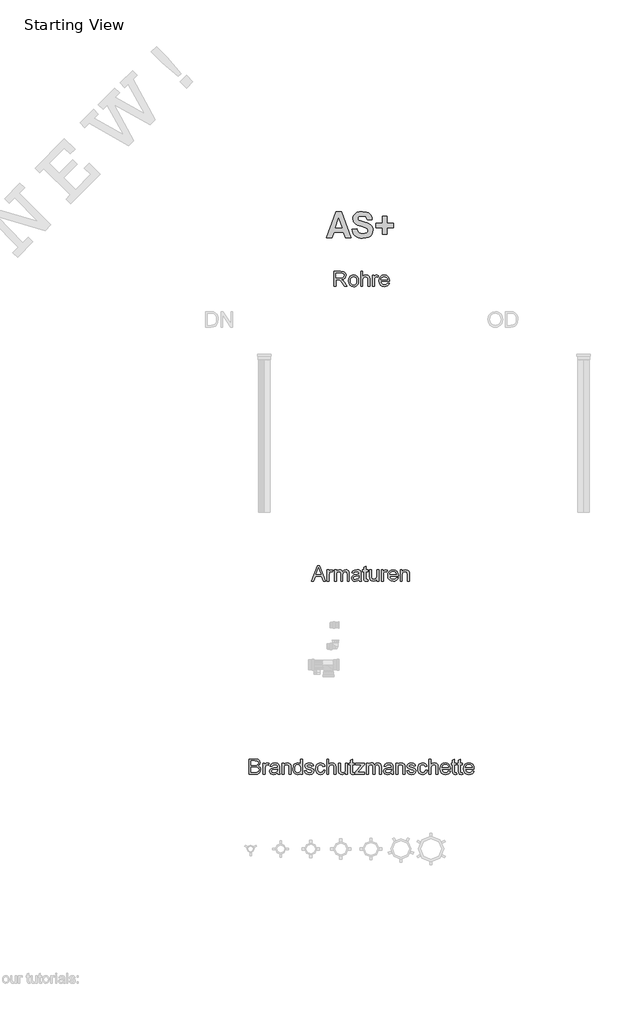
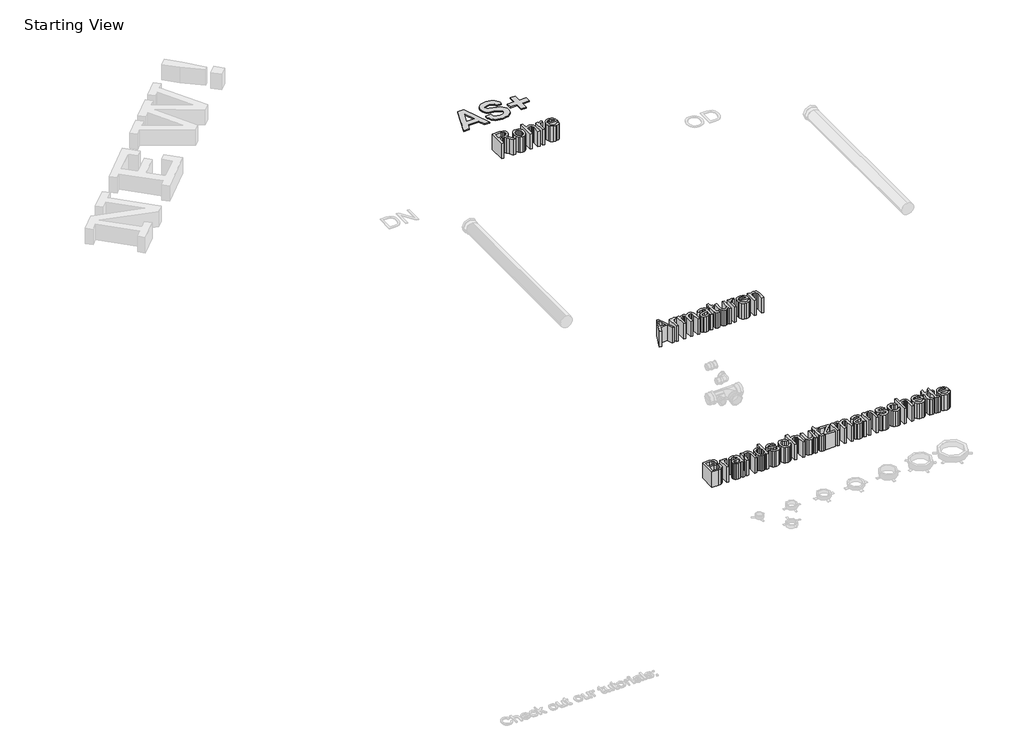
# One storey, part 2 of 2: 4 proxies.
"""IFC4 building model written with IfcOpenShell, lengths in millimetres."""

import ifcopenshell
import ifcopenshell.guid

model = None  # the IFC model being written
_history = None  # IfcOwnerHistory: only IFC2X3 demands one
_inside = {}  # id of a spatial element -> (the spatial element, [elements in it])
_under = {}  # id of a project, library or spatial element -> (it, [spatial elements below it])
_declared = {}  # id of a project -> (the project, [libraries it declares])
_typed = {}  # id of a type object -> (the type object, [elements of that type])
_made_of = {}  # id of a material, layer set ... -> (it, [elements and type objects made of it])


def new_model(schema):
    """Start an empty IFC model of exactly this schema.

    Asked for "IFC4X3", IfcOpenShell would pick the latest addendum, in which some entities
    have other attributes; the version numbers below select the first issue.
    IFC2X3 requires an IfcOwnerHistory on every rooted entity: one is made here for all.
    """
    global model, _history
    if schema == "IFC4X3":
        model = ifcopenshell.file(schema_version=(4, 3, 0, 0))
    else:
        model = ifcopenshell.file(schema=schema)
    _inside.clear()
    _under.clear()
    _declared.clear()
    _typed.clear()
    _made_of.clear()
    _history = None
    if model.schema == "IFC2X3":
        org = make("IfcOrganization", Name="unknown")
        user = make(
            "IfcPersonAndOrganization",
            ThePerson=make("IfcPerson", FamilyName="unknown"),
            TheOrganization=org,
        )
        app = make(
            "IfcApplication",
            ApplicationDeveloper=org,
            Version="unknown",
            ApplicationFullName="unknown",
            ApplicationIdentifier="unknown",
        )
        _history = make(
            "IfcOwnerHistory",
            OwningUser=user,
            OwningApplication=app,
            ChangeAction="ADDED",
            CreationDate=0,
        )
    return model


def make(cls, **values):
    """One entity of the class cls with the attributes given. An attribute that is None is left unset."""
    return model.create_entity(
        cls, **{name: value for name, value in values.items() if value is not None}
    )


def rooted(cls, **values):
    """An entity with a GlobalId (a new one), such as an element, a storey or a relation."""
    return make(cls, GlobalId=ifcopenshell.guid.new(), OwnerHistory=_history, **values)


def si_unit(unit_type, name, prefix=None):
    """IfcSIUnit, for example si_unit("LENGTHUNIT", "METRE", prefix="MILLI")."""
    return make("IfcSIUnit", UnitType=unit_type, Prefix=prefix, Name=name)


def assignment(units):
    """IfcUnitAssignment: the units of a project."""
    return None if units is None else make("IfcUnitAssignment", Units=units)


def point(xyz):
    """IfcCartesianPoint."""
    return None if xyz is None else make("IfcCartesianPoint", Coordinates=xyz)


def direction(xyz):
    """IfcDirection."""
    return None if xyz is None else make("IfcDirection", DirectionRatios=xyz)


def frame(location, z_axis=None, x_axis=None):
    """IfcAxis2Placement3D, a coordinate frame: its origin and axes. An axis left out is left unset."""
    return make(
        "IfcAxis2Placement3D",
        Location=point(location),
        Axis=direction(z_axis),
        RefDirection=direction(x_axis),
    )


def origin():
    """The frame at (0, 0, 0) with its axes left unset."""
    return frame((0.0, 0.0, 0.0))


def origin_with_axes():
    """The frame at (0, 0, 0) with the z axis (0, 0, 1) and the x axis (1, 0, 0) written out."""
    return frame((0.0, 0.0, 0.0), z_axis=(0.0, 0.0, 1.0), x_axis=(1.0, 0.0, 0.0))


def place(relative_to, where):
    """IfcLocalPlacement: puts the frame where relative to a parent placement (None: the world)."""
    return make(
        "IfcLocalPlacement", PlacementRelTo=relative_to, RelativePlacement=where
    )


def context(
    kind, dimensions, precision=None, world=None, true_north=None, identifier=None
):
    """IfcGeometricRepresentationContext, for example the 3D "Model" context."""
    return make(
        "IfcGeometricRepresentationContext",
        ContextIdentifier=identifier,
        ContextType=kind,
        CoordinateSpaceDimension=dimensions,
        Precision=precision,
        WorldCoordinateSystem=world,
        TrueNorth=true_north,
    )


def project(units=None, contexts=None):
    """IfcProject with its units and contexts."""
    return rooted(
        "IfcProject",
        Name="project",
        RepresentationContexts=contexts,
        UnitsInContext=assignment(units),
    )


def spatial(cls, under=None, at=None, **own):
    """A site, building, storey or space (cls), placed at a placement, below another one or the project."""
    s = rooted(cls, ObjectPlacement=at, **own)
    if under is not None:
        _under.setdefault(under.id(), (under, []))[1].append(s)
    return s


def polyline(points):
    """IfcPolyline through the points."""
    return make("IfcPolyline", Points=[point(p) for p in points])


def outline(outer, holes=None, kind="AREA"):
    """IfcArbitraryClosedProfileDef: a profile drawn as a closed curve; with holes, ...WithVoids."""
    if holes is None:
        return make("IfcArbitraryClosedProfileDef", ProfileType=kind, OuterCurve=outer)
    return make(
        "IfcArbitraryProfileDefWithVoids",
        ProfileType=kind,
        OuterCurve=outer,
        InnerCurves=holes,
    )


def extrude(swept, where, along, depth):
    """IfcExtrudedAreaSolid: the profile swept, set in the frame where, extruded along a direction by depth."""
    return make(
        "IfcExtrudedAreaSolid",
        SweptArea=swept,
        Position=where,
        ExtrudedDirection=direction(along),
        Depth=depth,
    )


def shape(context_of_items, identifier, shape_type, items):
    """IfcShapeRepresentation: the items that make up one representation, for example the "Body"."""
    return make(
        "IfcShapeRepresentation",
        ContextOfItems=context_of_items,
        RepresentationIdentifier=identifier,
        RepresentationType=shape_type,
        Items=items,
    )


def made_of(thing, what):
    """Note that an element or type object is made of a material, layer set ...; save() writes the relation."""
    if what is not None:
        _made_of.setdefault(what.id(), (what, []))[1].append(thing)
    return thing


def element(
    cls,
    number,
    at=None,
    inside=None,
    cuts=None,
    type_object=None,
    material=None,
    context=None,
    identifier="Body",
    shape_type=None,
    held_by="IfcProductDefinitionShape",
    body=None,
    shapes=None,
    **own,
):
    """One element of the class cls, such as IfcWall. Its Tag is "e" and its number.

    at: its placement. inside: the storey or other place that contains it. cuts: it is an
    opening in that element (IfcRelVoidsElement). A single representation is given by context,
    identifier, shape_type and body (its items); several are given by shapes. held_by: the class
    of the entity that holds the representations. save() writes the other relations.
    """
    e = rooted(cls, Tag="e%d" % number, ObjectPlacement=at, **own)
    if body is not None:
        shapes = [shape(context, identifier, shape_type, body)]
    if shapes is not None:
        e.Representation = make(held_by, Representations=shapes)
    if inside is not None:
        _inside.setdefault(inside.id(), (inside, []))[1].append(e)
    if cuts is not None:
        rooted(
            "IfcRelVoidsElement", RelatingBuildingElement=cuts, RelatedOpeningElement=e
        )
    if type_object is not None:
        _typed.setdefault(type_object.id(), (type_object, []))[1].append(e)
    return made_of(e, material)


def aggregate(whole, parts):
    """IfcRelAggregates: a whole, such as a stair, and the parts it consists of."""
    return rooted("IfcRelAggregates", RelatingObject=whole, RelatedObjects=parts)


def save(model, path):
    """Write the relations noted so far, then the file.

    IfcRelAggregates (storeys below a building ...), IfcRelContainedInSpatialStructure (elements
    in a storey), IfcRelDefinesByType, IfcRelAssociatesMaterial and IfcRelDeclares: one each for
    every whole, place, type object, material and project.
    """
    for whole, parts in _under.values():
        aggregate(whole, parts)
    for where, things in _inside.values():
        rooted(
            "IfcRelContainedInSpatialStructure",
            RelatedElements=things,
            RelatingStructure=where,
        )
    for kind, things in _typed.values():
        rooted("IfcRelDefinesByType", RelatedObjects=things, RelatingType=kind)
    for what, things in _made_of.values():
        rooted("IfcRelAssociatesMaterial", RelatedObjects=things, RelatingMaterial=what)
    for by, libraries in _declared.values():
        rooted("IfcRelDeclares", RelatingContext=by, RelatedDefinitions=libraries)
    model.write(path)


model = new_model("IFC4")

# Units and contexts
model_context = context("Model", 3, world=origin())
ifc_project = project(units=[si_unit("LENGTHUNIT", "METRE", prefix="MILLI")], contexts=[model_context])

# Site, building, storey
site = spatial("IfcSite", under=ifc_project)
building = spatial("IfcBuilding", under=site)
storey = spatial("IfcBuildingStorey", under=building, Name="Starting View", Elevation=0.0)

# Proxies
placement = place(None, origin())
element("IfcBuildingElementProxy", 1, Name="Arial 150", ObjectType="Arial 150", at=placement, inside=storey, context=model_context, shape_type="SweptSolid", body=[
    extrude(outline(polyline([(25962.4891453, 14074.0803138), (25962.4891453, 14224.764779), (26027.4203175, 14224.764779), (26057.568247, 14220.699683), (26066.8480703, 14215.0710884), (26074.0493604, 14206.3154969), (26078.6708779, 14195.4583796), (26080.2113838, 14183.5252073), (26077.6592024, 14168.6811688), (26070.0026584, 14156.3755161), (26057.0118255, 14147.3532102), (26038.4567773, 14142.3592121), (26049.1621434, 14134.3025964), (26064.4292462, 14114.9152152), (26089.5555865, 14074.0803138), (26067.6666077, 14074.0803138), (26048.0584974, 14105.3134952), (26033.8950406, 14125.9884633), (26023.9438326, 14135.7557303), (26014.985906, 14139.3425797), (26004.0598108, 14140.0047673), (25981.3247035, 14140.0047673), (25981.3247035, 14074.0803138), (25962.4891453, 14074.0803138)]), holes=[polyline([(25981.3247035, 14158.8403255), (26023.4839801, 14158.8403255), (26044.9866827, 14161.5074699), (26057.200365, 14170.0423322), (26061.3758256, 14182.8262315), (26059.3846643, 14192.0140844), (26053.4111804, 14199.4177095), (26043.1334772, 14204.301343), (26028.2296579, 14205.9292208), (25981.3247035, 14205.9292208), (25981.3247035, 14158.8403255)])]), origin_with_axes(), (0.0, 0.0, 1.0), 150.0),
    extrude(outline(polyline([(26106.1102762, 14129.4097658), (26110.1845693, 14156.0904075), (26122.4074486, 14174.8431923), (26137.5090045, 14184.0310451), (26155.5904046, 14187.0936627), (26175.3778574, 14183.364259), (26191.1829876, 14172.1760478), (26201.5434643, 14154.4119459), (26204.9969565, 14130.9548702), (26203.4702463, 14111.926174), (26198.8901154, 14097.4408205), (26191.3899212, 14086.5929001), (26181.103021, 14078.4765036), (26168.8847402, 14073.4135277), (26155.5904046, 14071.725869), (26135.5638285, 14075.4414772), (26119.7770924, 14086.5883016), (26109.5269803, 14104.724884), (26106.1102762, 14129.4097658)]), holes=[polyline([(26124.9458344, 14129.446554), (26127.1255352, 14112.3998221), (26133.6646377, 14100.2551177), (26143.505481, 14092.9848498), (26155.5904046, 14090.5614272), (26167.6201458, 14092.9986454), (26177.4425951, 14100.3103), (26183.9816976, 14112.6159528), (26186.1613984, 14130.0351652), (26183.967902, 14146.5852565), (26177.3874128, 14158.564414), (26167.551168, 14165.8346819), (26155.5904046, 14168.2581045), (26143.505481, 14165.8438789), (26133.6646377, 14158.6012022), (26127.1255352, 14146.484089), (26124.9458344, 14129.446554)])]), origin_with_axes(), (0.0, 0.0, 1.0), 150.0),
    extrude(outline(polyline([(26226.1869595, 14074.0803138), (26226.1869595, 14224.764779), (26245.0225176, 14224.764779), (26245.0225176, 14169.3617505), (26259.7102063, 14182.6606847), (26277.8008034, 14187.0936627), (26298.9540181, 14182.2560145), (26311.7930997, 14168.8835039), (26315.6558607, 14144.1250457), (26315.6558607, 14074.0803138), (26296.8203025, 14074.0803138), (26296.8203025, 14142.1752711), (26295.3211834, 14153.965889), (26290.823826, 14162.0408988), (26283.5765507, 14166.7038031), (26273.8276778, 14168.2581045), (26258.3950281, 14164.0642498), (26248.0943323, 14152.6966961), (26245.0225176, 14132.8678566), (26245.0225176, 14074.0803138), (26226.1869595, 14074.0803138)])), origin_with_axes(), (0.0, 0.0, 1.0), 150.0),
    extrude(outline(polyline([(26341.5547531, 14074.0803138), (26341.5547531, 14184.7392179), (26358.0358665, 14184.7392179), (26358.0358665, 14168.3684691), (26369.734514, 14183.4516309), (26381.5067378, 14187.0936627), (26400.4158724, 14181.2811272), (26394.1250903, 14164.3953436), (26380.8813384, 14168.2581045), (26370.2311547, 14164.5424964), (26363.4437319, 14154.2418005), (26360.3903113, 14132.2424572), (26360.3903113, 14074.0803138), (26341.5547531, 14074.0803138)])), origin_with_axes(), (0.0, 0.0, 1.0), 150.0),
    extrude(outline(polyline([(26489.6640444, 14107.0425405), (26508.1317206, 14104.6880958), (26501.477655, 14090.7729593), (26490.8596609, 14080.3710959), (26476.5168616, 14073.8871757), (26458.6883804, 14071.725869), (26436.5878696, 14075.4552727), (26419.5825243, 14086.6434839), (26408.7392025, 14104.5639356), (26405.1247619, 14128.4900609), (26408.7759907, 14153.220928), (26419.7296771, 14171.7161953), (26436.5050961, 14183.2492958), (26457.6215226, 14187.0936627), (26478.0803601, 14183.2584929), (26494.4281162, 14171.7529835), (26505.1472779, 14153.2945044), (26508.7203318, 14128.6004255), (26508.6099672, 14123.5236539), (26423.9603201, 14123.5236539), (26427.2206743, 14109.4245765), (26434.7944448, 14099.0595012), (26445.7251386, 14092.6859457), (26459.0562624, 14090.5614272), (26477.5239386, 14094.4977645), (26489.6640444, 14107.0425405)]), holes=[polyline([(26423.9603201, 14142.3592121), (26489.8847736, 14142.3592121), (26487.3371908, 14152.31042), (26482.3431927, 14159.4289367), (26471.3619151, 14166.0508126), (26457.5479462, 14168.2581045), (26444.8514189, 14166.4968695), (26434.3529864, 14161.2131643), (26427.0551274, 14152.9772062), (26423.9603201, 14142.3592121)])]), origin_with_axes(), (0.0, 0.0, 1.0), 150.0),
])
element("IfcBuildingElementProxy", 2, Name="Arial 150", ObjectType="Arial 150", at=placement, inside=storey, context=model_context, shape_type="SweptSolid", body=[
    extrude(outline(polyline([(25741.2817016, 11169.7806013), (25801.4304078, 11320.4650665), (25817.4700628, 11320.4650665), (25877.618769, 11169.7806013), (25857.7163531, 11169.7806013), (25840.4626875, 11216.8694967), (25778.4009949, 11216.8694967), (25761.1841176, 11169.7806013), (25741.2817016, 11169.7806013)]), holes=[polyline([(25785.3171764, 11235.7050548), (25833.5832942, 11235.7050548), (25820.0084486, 11272.7507717), (25809.4502353, 11301.6295084), (25800.0692444, 11275.9881333), (25785.3171764, 11235.7050548)])]), origin_with_axes(), (0.0, 0.0, 1.0), 150.0),
    extrude(outline(polyline([(25895.3874694, 11169.7806013), (25895.3874694, 11280.4395054), (25911.8685828, 11280.4395054), (25911.8685828, 11264.0687567), (25923.5672302, 11279.1519185), (25935.3394541, 11282.7939502), (25954.2485886, 11276.9814147), (25947.9578065, 11260.0956311), (25934.7140547, 11263.9583921), (25924.0638709, 11260.2427839), (25917.2764481, 11249.942088), (25914.2230276, 11227.9427447), (25914.2230276, 11169.7806013), (25895.3874694, 11169.7806013)])), origin_with_axes(), (0.0, 0.0, 1.0), 150.0),
    extrude(outline(polyline([(25966.0208125, 11169.7806013), (25966.0208125, 11280.4395054), (25984.8563706, 11280.4395054), (25984.8563706, 11262.2293467), (25997.8058169, 11277.1469616), (26016.2367048, 11282.7939502), (26026.7121446, 11281.3546119), (26035.1090512, 11277.036597), (26045.4833234, 11260.9049715), (26060.1802091, 11277.3217055), (26078.7398558, 11282.7939502), (26092.8987141, 11280.5176804), (26103.3695554, 11273.6888708), (26109.83968, 11262.1235806), (26111.9963882, 11245.6378687), (26111.9963882, 11169.7806013), (26093.16083, 11169.7806013), (26093.16083, 11237.5444648), (26091.4133905, 11253.2714201), (26085.0858202, 11261.0153361), (26074.3252719, 11263.9583921), (26064.121145, 11262.0729968), (26055.8024134, 11256.4168112), (26050.2703879, 11246.6035589), (26048.4263794, 11232.2469641), (26048.4263794, 11169.7806013), (26029.5908212, 11169.7806013), (26029.5908212, 11239.6413922), (26025.2314196, 11257.8883391), (26019.4786649, 11262.4408788), (26010.9392041, 11263.9583921), (25996.9964765, 11259.9116901), (25987.7258502, 11248.0658899), (25984.8563706, 11225.5883), (25984.8563706, 11169.7806013), (25966.0208125, 11169.7806013)])), origin_with_axes(), (0.0, 0.0, 1.0), 150.0),
    extrude(outline(polyline([(26210.8830685, 11183.9072699), (26192.6177274, 11171.1417647), (26172.4394, 11167.4261565), (26156.6986491, 11169.6610396), (26145.0873736, 11176.365689), (26137.9274703, 11186.5468232), (26135.5408359, 11199.2111609), (26139.1460794, 11214.1103817), (26148.6190408, 11224.9261124), (26161.8076103, 11231.1065299), (26178.1047827, 11233.9392212), (26210.7727039, 11240.4139444), (26210.8830685, 11244.6077991), (26209.5862844, 11253.0139027), (26205.6959323, 11258.5137385), (26196.9955231, 11262.5972287), (26184.8738114, 11263.9583921), (26165.8175241, 11260.3347544), (26156.7308388, 11247.4772787), (26137.8952806, 11249.8317234), (26146.0438668, 11268.2258232), (26162.4514038, 11279.0047657), (26187.3018326, 11282.7939502), (26210.1289104, 11279.4462241), (26223.0231743, 11271.0401205), (26228.7989216, 11258.2562211), (26229.7186266, 11241.7751077), (26229.7186266, 11218.3410247), (26230.6751198, 11185.6179212), (26234.4275162, 11169.7806013), (26215.591958, 11169.7806013), (26210.8830685, 11183.9072699)]), holes=[polyline([(26210.8830685, 11221.5783862), (26180.4960157, 11215.8026389), (26164.2908138, 11212.7492183), (26156.951568, 11207.7828114), (26154.376394, 11200.5355361), (26159.9865944, 11190.3452048), (26176.4493137, 11186.2617147), (26195.5056011, 11190.7682691), (26207.7928597, 11201.6759703), (26210.7727039, 11216.2440973), (26210.8830685, 11221.5783862)])]), origin_with_axes(), (0.0, 0.0, 1.0), 150.0),
    extrude(outline(polyline([(26295.6430802, 11185.4891625), (26297.9975249, 11169.2287783), (26283.9076445, 11167.4261565), (26268.1255069, 11170.5531535), (26260.2528322, 11178.756922), (26257.9719638, 11200.1308659), (26257.9719638, 11261.6039473), (26243.8452952, 11261.6039473), (26243.8452952, 11280.4395054), (26257.9719638, 11280.4395054), (26257.9719638, 11307.3316793), (26276.807522, 11318.4049273), (26276.807522, 11280.4395054), (26295.6430802, 11280.4395054), (26295.6430802, 11261.6039473), (26276.807522, 11261.6039473), (26276.807522, 11200.6826889), (26277.8008034, 11190.9706042), (26281.0197708, 11187.5309076), (26287.4393117, 11186.2617147), (26295.6430802, 11185.4891625)])), origin_with_axes(), (0.0, 0.0, 1.0), 150.0),
    extrude(outline(polyline([(26385.1119814, 11169.7806013), (26385.1119814, 11188.8001004), (26370.3599134, 11172.7696425), (26351.119685, 11167.4261565), (26333.406167, 11171.1785529), (26321.1924847, 11180.5963319), (26315.5822843, 11194.4654832), (26314.4786383, 11211.9766661), (26314.4786383, 11280.4395054), (26333.3141965, 11280.4395054), (26333.3141965, 11220.8426222), (26334.4546306, 11201.6391821), (26341.904241, 11190.3635989), (26355.9389392, 11186.2617147), (26371.6658945, 11190.4555694), (26382.0585608, 11201.8783054), (26385.1119814, 11222.8659732), (26385.1119814, 11280.4395054), (26403.9475395, 11280.4395054), (26403.9475395, 11169.7806013), (26385.1119814, 11169.7806013)])), origin_with_axes(), (0.0, 0.0, 1.0), 150.0),
    extrude(outline(polyline([(26429.846432, 11169.7806013), (26429.846432, 11280.4395054), (26446.3275454, 11280.4395054), (26446.3275454, 11264.0687567), (26458.0261928, 11279.1519185), (26469.7984167, 11282.7939502), (26488.7075512, 11276.9814147), (26482.4167691, 11260.0956311), (26469.1730173, 11263.9583921), (26458.5228335, 11260.2427839), (26451.7354107, 11249.942088), (26448.6819901, 11227.9427447), (26448.6819901, 11169.7806013), (26429.846432, 11169.7806013)])), origin_with_axes(), (0.0, 0.0, 1.0), 150.0),
    extrude(outline(polyline([(26577.9557232, 11202.7428281), (26596.4233994, 11200.3883833), (26589.7693338, 11186.4732468), (26579.1513397, 11176.0713834), (26564.8085404, 11169.5874632), (26546.9800593, 11167.4261565), (26524.8795484, 11171.1555602), (26507.8742032, 11182.3437714), (26497.0308814, 11200.2642231), (26493.4164408, 11224.1903484), (26497.0676696, 11248.9212155), (26508.021356, 11267.4164828), (26524.7967749, 11278.9495834), (26545.9132015, 11282.7939502), (26566.3720389, 11278.9587804), (26582.7197951, 11267.453271), (26593.4389567, 11248.9947919), (26597.0120106, 11224.300713), (26596.901646, 11219.2239414), (26512.2519989, 11219.2239414), (26515.5123531, 11205.124864), (26523.0861237, 11194.7597888), (26534.0168175, 11188.3862332), (26547.3479413, 11186.2617147), (26565.8156174, 11190.198052), (26577.9557232, 11202.7428281)]), holes=[polyline([(26512.2519989, 11238.0594996), (26578.1764524, 11238.0594996), (26575.6288696, 11248.0107076), (26570.6348715, 11255.1292242), (26559.653594, 11261.7511001), (26545.8396251, 11263.9583921), (26533.1430977, 11262.197157), (26522.6446653, 11256.9134518), (26515.3468062, 11248.6774937), (26512.2519989, 11238.0594996)])]), origin_with_axes(), (0.0, 0.0, 1.0), 150.0),
    extrude(outline(polyline([(26615.8475688, 11169.7806013), (26615.8475688, 11280.4395054), (26634.6831269, 11280.4395054), (26634.6831269, 11264.9884616), (26649.085707, 11278.3425781), (26668.7489997, 11282.7939502), (26686.5360941, 11279.2071008), (26698.6762, 11269.7893217), (26704.3231886, 11255.9385646), (26705.31647, 11237.7284058), (26705.31647, 11169.7806013), (26686.4809118, 11169.7806013), (26686.4809118, 11235.19002), (26684.3104081, 11251.8550744), (26676.6400685, 11260.6658482), (26663.7090163, 11263.9583921), (26652.677155, 11262.109785), (26643.2731715, 11256.563964), (26636.8306381, 11245.8494008), (26634.6831269, 11228.4945677), (26634.6831269, 11169.7806013), (26615.8475688, 11169.7806013)])), origin_with_axes(), (0.0, 0.0, 1.0), 150.0),
])
element("IfcBuildingElementProxy", 3, Name="Arial 150", ObjectType="Arial 150", at=placement, inside=storey, context=model_context, shape_type="SweptSolid", body=[
    extrude(outline(polyline([(25126.6612523, 9265.4808888), (25126.6612523, 9416.165354), (25184.1612081, 9416.165354), (25212.3225749, 9411.732376), (25221.7863392, 9406.10838), (25228.950841, 9398.1023481), (25234.9657117, 9378.8253315), (25229.9073342, 9361.222178), (25214.6218373, 9347.8864557), (25225.2950137, 9342.3130435), (25233.181484, 9333.8333635), (25238.0513219, 9323.0084358), (25239.6746012, 9310.3992804), (25235.2416232, 9290.1473766), (25224.2603456, 9275.7264024), (25207.8712027, 9268.0744569), (25183.7197497, 9265.4808888), (25126.6612523, 9265.4808888)]), holes=[polyline([(25145.4968104, 9354.94979), (25179.893777, 9354.94979), (25199.9801339, 9356.5684708), (25212.0650575, 9363.5398346), (25216.1301535, 9375.8086992), (25212.340969, 9388.0959578), (25201.4884501, 9395.3616272), (25177.2818148, 9397.3297959), (25145.4968104, 9397.3297959), (25145.4968104, 9354.94979)]), polyline([(25145.4968104, 9284.316447), (25184.1244199, 9284.316447), (25198.1039357, 9285.0522109), (25209.9313419, 9289.1540952), (25217.7672284, 9297.5234106), (25220.839043, 9310.2153394), (25217.2337995, 9324.8570428), (25205.5535461, 9333.5942402), (25182.2850099, 9336.1142319), (25145.4968104, 9336.1142319), (25145.4968104, 9284.316447)])]), origin_with_axes(), (0.0, 0.0, 1.0), 150.0),
    extrude(outline(polyline([(25263.2190489, 9265.4808888), (25263.2190489, 9376.139793), (25279.7001623, 9376.139793), (25279.7001623, 9359.7690442), (25291.3988097, 9374.852206), (25303.1710336, 9378.4942377), (25322.0801681, 9372.6817022), (25315.789386, 9355.7959186), (25302.5456342, 9359.6586796), (25291.8954504, 9355.9430714), (25285.1080276, 9345.6423756), (25282.054607, 9323.6430322), (25282.054607, 9265.4808888), (25263.2190489, 9265.4808888)])), origin_with_axes(), (0.0, 0.0, 1.0), 150.0),
    extrude(outline(polyline([(25404.485735, 9279.6075574), (25386.220394, 9266.8420522), (25366.0420665, 9263.126444), (25350.3013157, 9265.3613272), (25338.6900402, 9272.0659765), (25331.5301369, 9282.2471107), (25329.1435024, 9294.9114484), (25332.748746, 9309.8106692), (25342.2217074, 9320.6263999), (25355.4102769, 9326.8068174), (25371.7074493, 9329.6395088), (25404.3753704, 9336.1142319), (25404.485735, 9340.3080866), (25403.188951, 9348.7141902), (25399.2985989, 9354.214026), (25390.5981897, 9358.2975162), (25378.476478, 9359.6586796), (25359.4201906, 9356.0350419), (25350.3335053, 9343.1775662), (25331.4979472, 9345.532011), (25339.6465334, 9363.9261107), (25356.0540704, 9374.7050532), (25380.9044991, 9378.4942377), (25403.7315769, 9375.1465116), (25416.6258409, 9366.740408), (25422.4015882, 9353.9565086), (25423.3212932, 9337.4753953), (25423.3212932, 9314.0413122), (25424.2777864, 9281.3182087), (25428.0301827, 9265.4808888), (25409.1946246, 9265.4808888), (25404.485735, 9279.6075574)]), holes=[polyline([(25404.485735, 9317.2786737), (25374.0986822, 9311.5029264), (25357.8934803, 9308.4495058), (25350.5542345, 9303.4830989), (25347.9790606, 9296.2358236), (25353.589261, 9286.0454923), (25370.0519803, 9281.9620022), (25389.1082676, 9286.4685566), (25401.3955263, 9297.3762578), (25404.3753704, 9311.9443848), (25404.485735, 9317.2786737)])]), origin_with_axes(), (0.0, 0.0, 1.0), 150.0),
    extrude(outline(polyline([(25449.2201856, 9265.4808888), (25449.2201856, 9376.139793), (25468.0557438, 9376.139793), (25468.0557438, 9360.6887492), (25482.4583239, 9374.0428656), (25502.1216166, 9378.4942377), (25519.908711, 9374.9073883), (25532.0488169, 9365.4896092), (25537.6958055, 9351.6388521), (25538.6890869, 9333.4286933), (25538.6890869, 9265.4808888), (25519.8535287, 9265.4808888), (25519.8535287, 9330.8903075), (25517.683025, 9347.5553619), (25510.0126854, 9356.3661357), (25497.0816332, 9359.6586796), (25486.0497719, 9357.8100725), (25476.6457884, 9352.2642515), (25470.2032549, 9341.5496884), (25468.0557438, 9324.1948552), (25468.0557438, 9265.4808888), (25449.2201856, 9265.4808888)])), origin_with_axes(), (0.0, 0.0, 1.0), 150.0),
    extrude(outline(polyline([(25632.8668776, 9265.4808888), (25632.8668776, 9283.2495892), (25620.4048751, 9268.1572303), (25603.1788006, 9263.126444), (25591.0019066, 9264.9474599), (25579.8550821, 9270.4105075), (25570.418909, 9279.1339093), (25563.3739688, 9290.7359878), (25558.986976, 9304.7476933), (25557.524645, 9320.6999763), (25562.9141163, 9350.6823589), (25569.6463568, 9362.5741444), (25579.0641358, 9371.3205388), (25590.4546821, 9376.700813), (25603.1052242, 9378.4942377), (25620.4692544, 9373.3622839), (25632.8668776, 9360.0265616), (25632.8668776, 9416.165354), (25651.7024358, 9416.165354), (25651.7024358, 9265.4808888), (25632.8668776, 9265.4808888)]), holes=[polyline([(25576.3602032, 9320.7735527), (25578.4847217, 9303.7360178), (25584.8582773, 9291.6189046), (25594.1197065, 9284.3762278), (25604.907846, 9281.9620022), (25615.691387, 9284.2658632), (25624.7182914, 9291.1774462), (25630.8297311, 9302.8255098), (25632.8668776, 9319.3388129), (25630.7929429, 9337.3926218), (25624.5711386, 9349.9098067), (25615.3143079, 9357.2214613), (25604.1352938, 9359.6586796), (25593.2367897, 9357.3180304), (25584.3064543, 9350.2960828), (25578.346766, 9338.2341519), (25576.3602032, 9320.7735527)])]), origin_with_axes(), (0.0, 0.0, 1.0), 150.0),
    extrude(outline(polyline([(25672.8924387, 9298.4431156), (25691.7279969, 9300.7975603), (25694.698644, 9292.7409446), (25700.4468002, 9286.8180445), (25720.4227925, 9281.9620022), (25739.6262326, 9286.4133743), (25745.8802266, 9296.861223), (25744.307531, 9301.662083), (25739.5894444, 9305.3225089), (25720.2020633, 9310.693586), (25691.8383615, 9319.90903), (25679.4591323, 9330.6695783), (25675.2468835, 9345.8631047), (25678.6313978, 9359.8978029), (25687.8652359, 9370.621563), (25699.8397949, 9376.1949753), (25716.0449968, 9378.4942377), (25738.964045, 9374.7970237), (25753.5321721, 9364.7906334), (25760.0068952, 9347.8864557), (25741.171337, 9345.532011), (25734.0896086, 9355.9246773), (25717.5165247, 9359.6586796), (25699.490307, 9356.0902242), (25694.0824416, 9347.7760911), (25696.3265218, 9342.2946494), (25703.3530679, 9338.1375828), (25719.5766639, 9334.1276691), (25747.2229958, 9325.261713), (25760.0620775, 9315.2185346), (25764.7157847, 9298.8477858), (25759.2527371, 9280.821568), (25743.4889936, 9267.7433631), (25720.1652751, 9263.126444), (25701.1733671, 9265.3521301), (25687.3134129, 9272.0291883), (25678.0611807, 9283.0840423), (25672.8924387, 9298.4431156)])), origin_with_axes(), (0.0, 0.0, 1.0), 150.0),
    extrude(outline(polyline([(25856.5391307, 9305.5064499), (25875.3746889, 9303.1520051), (25870.1231734, 9286.3995788), (25860.2547389, 9273.7398396), (25846.6982873, 9265.7797929), (25830.3827209, 9263.126444), (25810.3469477, 9266.8282566), (25794.6797732, 9277.9336943), (25784.5676169, 9295.9553136), (25781.1968981, 9320.4056707), (25782.6362364, 9337.1672941), (25786.9542513, 9351.6940344), (25794.2199207, 9363.4248715), (25804.5022225, 9371.7987854), (25816.8032767, 9376.8203746), (25830.1252035, 9378.4942377), (25846.0406983, 9376.1949753), (25858.7648168, 9369.2971878), (25867.8928888, 9358.1687575), (25873.0202441, 9343.1775662), (25854.1846859, 9340.8231214), (25845.4474886, 9354.9313959), (25830.2723563, 9359.6586796), (25818.1000607, 9357.3318259), (25808.4385598, 9350.3512651), (25802.1339821, 9338.3399179), (25800.0324562, 9320.9207055), (25802.0879969, 9303.2669682), (25808.2546188, 9291.2142344), (25817.7413758, 9284.2750602), (25829.7573215, 9281.9620022), (25839.5107929, 9283.405939), (25847.5076277, 9287.7377495), (25853.3247618, 9295.0677983), (25856.5391307, 9305.5064499)])), origin_with_axes(), (0.0, 0.0, 1.0), 150.0),
    extrude(outline(polyline([(25891.8558022, 9265.4808888), (25891.8558022, 9416.165354), (25910.6913604, 9416.165354), (25910.6913604, 9360.7623256), (25925.3790491, 9374.0612597), (25943.4696462, 9378.4942377), (25964.6228609, 9373.6565895), (25977.4619425, 9360.284079), (25981.3247035, 9335.5256207), (25981.3247035, 9265.4808888), (25962.4891453, 9265.4808888), (25962.4891453, 9333.5758461), (25960.9900262, 9345.3664641), (25956.4926688, 9353.4414738), (25949.2453935, 9358.1043781), (25939.4965206, 9359.6586796), (25924.0638709, 9355.4648248), (25913.7631751, 9344.0972712), (25910.6913604, 9324.2684316), (25910.6913604, 9265.4808888), (25891.8558022, 9265.4808888)])), origin_with_axes(), (0.0, 0.0, 1.0), 150.0),
    extrude(outline(polyline([(26077.856939, 9265.4808888), (26077.856939, 9284.500388), (26063.104871, 9268.46993), (26043.8646427, 9263.126444), (26026.1511246, 9266.8788404), (26013.9374423, 9276.2966195), (26008.3272419, 9290.1657707), (26007.2235959, 9307.6769536), (26007.2235959, 9376.139793), (26026.0591541, 9376.139793), (26026.0591541, 9316.5429097), (26027.1995883, 9297.3394696), (26034.6491987, 9286.0638864), (26048.6838968, 9281.9620022), (26064.4108521, 9286.1558569), (26074.8035184, 9297.5785929), (26077.856939, 9318.5662607), (26077.856939, 9376.139793), (26096.6924972, 9376.139793), (26096.6924972, 9265.4808888), (26077.856939, 9265.4808888)])), origin_with_axes(), (0.0, 0.0, 1.0), 150.0),
    extrude(outline(polyline([(26162.6169507, 9281.18945), (26164.9713955, 9264.9290658), (26150.881515, 9263.126444), (26135.0993775, 9266.253441), (26127.2267028, 9274.4572095), (26124.9458344, 9295.8311534), (26124.9458344, 9357.3042348), (26110.8191658, 9357.3042348), (26110.8191658, 9376.139793), (26124.9458344, 9376.139793), (26124.9458344, 9403.0319668), (26143.7813925, 9414.1052149), (26143.7813925, 9376.139793), (26162.6169507, 9376.139793), (26162.6169507, 9357.3042348), (26143.7813925, 9357.3042348), (26143.7813925, 9296.3829764), (26144.7746739, 9286.6708917), (26147.9936414, 9283.2311951), (26154.4131822, 9281.9620022), (26162.6169507, 9281.18945)])), origin_with_axes(), (0.0, 0.0, 1.0), 150.0),
    extrude(outline(polyline([(26169.680285, 9265.4808888), (26169.680285, 9283.212801), (26234.6850336, 9357.3042348), (26215.4448052, 9357.3042348), (26174.3891745, 9357.3042348), (26174.3891745, 9376.139793), (26261.503631, 9376.139793), (26261.503631, 9360.1369262), (26203.8565224, 9294.3964136), (26195.0273545, 9284.316447), (26216.8059686, 9284.316447), (26263.8580758, 9284.316447), (26263.8580758, 9265.4808888), (26169.680285, 9265.4808888)])), origin_with_axes(), (0.0, 0.0, 1.0), 150.0),
    extrude(outline(polyline([(26282.6936339, 9265.4808888), (26282.6936339, 9376.139793), (26301.5291921, 9376.139793), (26301.5291921, 9357.9296342), (26314.4786383, 9372.8472491), (26332.9095263, 9378.4942377), (26343.3849661, 9377.0548994), (26351.7818726, 9372.7368845), (26362.1561449, 9356.605259), (26376.8530306, 9373.021993), (26395.4126772, 9378.4942377), (26409.5715355, 9376.2179679), (26420.0423768, 9369.3891583), (26426.5125014, 9357.8238681), (26428.6692096, 9341.3381562), (26428.6692096, 9265.4808888), (26409.8336515, 9265.4808888), (26409.8336515, 9333.2447523), (26408.086212, 9348.9717076), (26401.7586417, 9356.7156236), (26390.9980933, 9359.6586796), (26380.7939665, 9357.7732843), (26372.4752348, 9352.1170987), (26366.9432093, 9342.3038464), (26365.0992008, 9327.9472516), (26365.0992008, 9265.4808888), (26346.2636427, 9265.4808888), (26346.2636427, 9335.3416797), (26341.904241, 9353.5886266), (26336.1514863, 9358.1411663), (26327.6120255, 9359.6586796), (26313.6692979, 9355.6119776), (26304.3986716, 9343.7661774), (26301.5291921, 9321.2885875), (26301.5291921, 9265.4808888), (26282.6936339, 9265.4808888)])), origin_with_axes(), (0.0, 0.0, 1.0), 150.0),
    extrude(outline(polyline([(26527.5558899, 9279.6075574), (26509.2905489, 9266.8420522), (26489.1122214, 9263.126444), (26473.3714705, 9265.3613272), (26461.7601951, 9272.0659765), (26454.6002917, 9282.2471107), (26452.2136573, 9294.9114484), (26455.8189009, 9309.8106692), (26465.2918622, 9320.6263999), (26478.4804318, 9326.8068174), (26494.7776041, 9329.6395088), (26527.4455253, 9336.1142319), (26527.5558899, 9340.3080866), (26526.2591059, 9348.7141902), (26522.3687538, 9354.214026), (26513.6683446, 9358.2975162), (26501.5466329, 9359.6586796), (26482.4903455, 9356.0350419), (26473.4036602, 9343.1775662), (26454.5681021, 9345.532011), (26462.7166883, 9363.9261107), (26479.1242252, 9374.7050532), (26503.974654, 9378.4942377), (26526.8017318, 9375.1465116), (26539.6959958, 9366.740408), (26545.4717431, 9353.9565086), (26546.3914481, 9337.4753953), (26546.3914481, 9314.0413122), (26547.3479413, 9281.3182087), (26551.1003376, 9265.4808888), (26532.2647794, 9265.4808888), (26527.5558899, 9279.6075574)]), holes=[polyline([(26527.5558899, 9317.2786737), (26497.1688371, 9311.5029264), (26480.9636352, 9308.4495058), (26473.6243894, 9303.4830989), (26471.0492155, 9296.2358236), (26476.6594159, 9286.0454923), (26493.1221352, 9281.9620022), (26512.1784225, 9286.4685566), (26524.4656812, 9297.3762578), (26527.4455253, 9311.9443848), (26527.5558899, 9317.2786737)])]), origin_with_axes(), (0.0, 0.0, 1.0), 150.0),
    extrude(outline(polyline([(26572.2903405, 9265.4808888), (26572.2903405, 9376.139793), (26591.1258987, 9376.139793), (26591.1258987, 9360.6887492), (26605.5284788, 9374.0428656), (26625.1917714, 9378.4942377), (26642.9788659, 9374.9073883), (26655.1189717, 9365.4896092), (26660.7659604, 9351.6388521), (26661.7592418, 9333.4286933), (26661.7592418, 9265.4808888), (26642.9236836, 9265.4808888), (26642.9236836, 9330.8903075), (26640.7531798, 9347.5553619), (26633.0828402, 9356.3661357), (26620.1517881, 9359.6586796), (26609.1199268, 9357.8100725), (26599.7159433, 9352.2642515), (26593.2734098, 9341.5496884), (26591.1258987, 9324.1948552), (26591.1258987, 9265.4808888), (26572.2903405, 9265.4808888)])), origin_with_axes(), (0.0, 0.0, 1.0), 150.0),
    extrude(outline(polyline([(26680.5947999, 9298.4431156), (26699.4303581, 9300.7975603), (26702.4010052, 9292.7409446), (26708.1491613, 9286.8180445), (26728.1251537, 9281.9620022), (26747.3285938, 9286.4133743), (26753.5825877, 9296.861223), (26752.0098922, 9301.662083), (26747.2918056, 9305.3225089), (26727.9044245, 9310.693586), (26699.5407227, 9319.90903), (26687.1614935, 9330.6695783), (26682.9492447, 9345.8631047), (26686.333759, 9359.8978029), (26695.5675971, 9370.621563), (26707.5421561, 9376.1949753), (26723.7473579, 9378.4942377), (26746.6664062, 9374.7970237), (26761.2345332, 9364.7906334), (26767.7092564, 9347.8864557), (26748.8736982, 9345.532011), (26741.7919698, 9355.9246773), (26725.2188859, 9359.6586796), (26707.1926682, 9356.0902242), (26701.7848028, 9347.7760911), (26704.028883, 9342.2946494), (26711.0554291, 9338.1375828), (26727.2790251, 9334.1276691), (26754.925357, 9325.261713), (26767.7644387, 9315.2185346), (26772.4181459, 9298.8477858), (26766.9550983, 9280.821568), (26751.1913548, 9267.7433631), (26727.8676363, 9263.126444), (26708.8757283, 9265.3521301), (26695.0157741, 9272.0291883), (26685.7635419, 9283.0840423), (26680.5947999, 9298.4431156)])), origin_with_axes(), (0.0, 0.0, 1.0), 150.0),
    extrude(outline(polyline([(26864.2414919, 9305.5064499), (26883.07705, 9303.1520051), (26877.8255346, 9286.3995788), (26867.9571, 9273.7398396), (26854.4006485, 9265.7797929), (26838.085082, 9263.126444), (26818.0493089, 9266.8282566), (26802.3821344, 9277.9336943), (26792.2699781, 9295.9553136), (26788.8992593, 9320.4056707), (26790.3385976, 9337.1672941), (26794.6566125, 9351.6940344), (26801.9222819, 9363.4248715), (26812.2045837, 9371.7987854), (26824.5056379, 9376.8203746), (26837.8275646, 9378.4942377), (26853.7430595, 9376.1949753), (26866.467178, 9369.2971878), (26875.59525, 9358.1687575), (26880.7226053, 9343.1775662), (26861.8870471, 9340.8231214), (26853.1498497, 9354.9313959), (26837.9747174, 9359.6586796), (26825.8024219, 9357.3318259), (26816.140921, 9350.3512651), (26809.8363433, 9338.3399179), (26807.7348174, 9320.9207055), (26809.7903581, 9303.2669682), (26815.95698, 9291.2142344), (26825.443737, 9284.2750602), (26837.4596826, 9281.9620022), (26847.213154, 9283.405939), (26855.2099889, 9287.7377495), (26861.027123, 9295.0677983), (26864.2414919, 9305.5064499)])), origin_with_axes(), (0.0, 0.0, 1.0), 150.0),
    extrude(outline(polyline([(26899.5581634, 9265.4808888), (26899.5581634, 9416.165354), (26918.3937216, 9416.165354), (26918.3937216, 9360.7623256), (26933.0814102, 9374.0612597), (26951.1720074, 9378.4942377), (26972.3252221, 9373.6565895), (26985.1643037, 9360.284079), (26989.0270647, 9335.5256207), (26989.0270647, 9265.4808888), (26970.1915065, 9265.4808888), (26970.1915065, 9333.5758461), (26968.6923874, 9345.3664641), (26964.19503, 9353.4414738), (26956.9477547, 9358.1043781), (26947.1988818, 9359.6586796), (26931.7662321, 9355.4648248), (26921.4655362, 9344.0972712), (26918.3937216, 9324.2684316), (26918.3937216, 9265.4808888), (26899.5581634, 9265.4808888)])), origin_with_axes(), (0.0, 0.0, 1.0), 150.0),
    extrude(outline(polyline([(27092.4019053, 9298.4431156), (27110.8695815, 9296.0886708), (27104.2155159, 9282.1735343), (27093.5975218, 9271.7716709), (27079.2547225, 9265.2877508), (27061.4262413, 9263.126444), (27039.3257305, 9266.8558478), (27022.3203852, 9278.0440589), (27011.4770634, 9295.9645106), (27007.8626228, 9319.8906359), (27011.5138516, 9344.621503), (27022.467538, 9363.1167703), (27039.242957, 9374.6498709), (27060.3593835, 9378.4942377), (27080.818221, 9374.6590679), (27097.1659771, 9363.1535585), (27107.8851388, 9344.6950794), (27111.4581927, 9320.0010005), (27111.3478281, 9314.924229), (27026.698181, 9314.924229), (27029.9585351, 9300.8251515), (27037.5323057, 9290.4600763), (27048.4629995, 9284.0865207), (27061.7941233, 9281.9620022), (27080.2617995, 9285.8983395), (27092.4019053, 9298.4431156)]), holes=[polyline([(27026.698181, 9333.7597871), (27092.6226345, 9333.7597871), (27090.0750517, 9343.7109951), (27085.0810536, 9350.8295117), (27074.099776, 9357.4513876), (27060.2858071, 9359.6586796), (27047.5892798, 9357.8974445), (27037.0908473, 9352.6137394), (27029.7929883, 9344.3777812), (27026.698181, 9333.7597871)])]), origin_with_axes(), (0.0, 0.0, 1.0), 150.0),
    extrude(outline(polyline([(27170.3193119, 9281.18945), (27172.6737567, 9264.9290658), (27158.5838762, 9263.126444), (27142.8017386, 9266.253441), (27134.9290639, 9274.4572095), (27132.6481956, 9295.8311534), (27132.6481956, 9357.3042348), (27118.521527, 9357.3042348), (27118.521527, 9376.139793), (27132.6481956, 9376.139793), (27132.6481956, 9403.0319668), (27151.4837537, 9414.1052149), (27151.4837537, 9376.139793), (27170.3193119, 9376.139793), (27170.3193119, 9357.3042348), (27151.4837537, 9357.3042348), (27151.4837537, 9296.3829764), (27152.4770351, 9286.6708917), (27155.6960026, 9283.2311951), (27162.1155434, 9281.9620022), (27170.3193119, 9281.18945)])), origin_with_axes(), (0.0, 0.0, 1.0), 150.0),
    extrude(outline(polyline([(27229.1804311, 9281.18945), (27231.5348759, 9264.9290658), (27217.4449955, 9263.126444), (27201.6628579, 9266.253441), (27193.7901832, 9274.4572095), (27191.5093148, 9295.8311534), (27191.5093148, 9357.3042348), (27177.3826462, 9357.3042348), (27177.3826462, 9376.139793), (27191.5093148, 9376.139793), (27191.5093148, 9403.0319668), (27210.344873, 9414.1052149), (27210.344873, 9376.139793), (27229.1804311, 9376.139793), (27229.1804311, 9357.3042348), (27210.344873, 9357.3042348), (27210.344873, 9296.3829764), (27211.3381543, 9286.6708917), (27214.5571218, 9283.2311951), (27220.9766626, 9281.9620022), (27229.1804311, 9281.18945)])), origin_with_axes(), (0.0, 0.0, 1.0), 150.0),
    extrude(outline(polyline([(27325.4919374, 9298.4431156), (27343.9596136, 9296.0886708), (27337.305548, 9282.1735343), (27326.6875539, 9271.7716709), (27312.3447546, 9265.2877508), (27294.5162735, 9263.126444), (27272.4157626, 9266.8558478), (27255.4104174, 9278.0440589), (27244.5670956, 9295.9645106), (27240.952655, 9319.8906359), (27244.6038838, 9344.621503), (27255.5575702, 9363.1167703), (27272.3329891, 9374.6498709), (27293.4494157, 9378.4942377), (27313.9082531, 9374.6590679), (27330.2560093, 9363.1535585), (27340.9751709, 9344.6950794), (27344.5482248, 9320.0010005), (27344.4378602, 9314.924229), (27259.7882131, 9314.924229), (27263.0485673, 9300.8251515), (27270.6223379, 9290.4600763), (27281.5530317, 9284.0865207), (27294.8841555, 9281.9620022), (27313.3518316, 9285.8983395), (27325.4919374, 9298.4431156)]), holes=[polyline([(27259.7882131, 9333.7597871), (27325.7126666, 9333.7597871), (27323.1650838, 9343.7109951), (27318.1710857, 9350.8295117), (27307.1898082, 9357.4513876), (27293.3758393, 9359.6586796), (27280.6793119, 9357.8974445), (27270.1808795, 9352.6137394), (27262.8830204, 9344.3777812), (27259.7882131, 9333.7597871)])]), origin_with_axes(), (0.0, 0.0, 1.0), 150.0),
])
element("IfcBuildingElementProxy", 4, Name="Arial 250", ObjectType="Arial 250", at=placement, inside=storey, context=model_context, shape_type="SweptSolid", body=[
    extrude(outline(polyline([(26128.5024163, 14553.3800263), (26077.4514902, 14553.3800263), (26057.4612887, 14610.061104), (25961.1161085, 14610.061104), (25941.3789475, 14553.3800263), (25889.63216, 14553.3800263), (25982.7510735, 14808.4448762), (26034.497861, 14808.4448762), (26128.5024163, 14553.3800263)]), holes=[polyline([(26041.8992964, 14654.5962366), (26009.0672881, 14747.7151501), (25976.6781008, 14654.5962366), (26041.8992964, 14654.5962366)])]), origin_with_axes(), (0.0, 0.0, 1.0), 10.0),
    extrude(outline(polyline([(26140.6483615, 14638.4016429), (26189.2321425, 14642.4502913), (26196.3172772, 14620.7204362), (26208.2101819, 14605.6328948), (26224.9899318, 14596.8081065), (26246.735602, 14593.8665104), (26269.3036539, 14596.4680833), (26285.5140626, 14604.272802), (26295.2877529, 14615.556828), (26298.5456496, 14628.5963225), (26293.1369084, 14643.8103842), (26274.190499, 14654.7227568), (26232.0592515, 14665.5402393), (26196.0958668, 14676.7214675), (26172.7212482, 14690.401471), (26154.7395558, 14713.6970144), (26148.7456584, 14741.5789173), (26151.4974741, 14760.3671764), (26159.7529212, 14777.8902328), (26173.1956992, 14792.7721787), (26191.5095072, 14803.6371063), (26214.3938598, 14810.2794201), (26241.5482712, 14812.4935247), (26283.5134609, 14806.9740782), (26300.0540084, 14800.0747701), (26313.633191, 14790.4157388), (26324.2945, 14778.4556202), (26332.0814268, 14764.6530503), (26336.9939714, 14749.008029), (26339.0321338, 14731.5205564), (26290.4483528, 14731.5205564), (26285.0791491, 14748.2133236), (26275.8036324, 14759.4499044), (26261.7677907, 14765.8312702), (26242.1176124, 14767.9583921), (26221.4315494, 14765.6968424), (26205.8062969, 14758.9121933), (26199.4486537, 14752.1117292), (26197.3294393, 14743.350201), (26199.2588733, 14735.0789388), (26205.0471754, 14728.1045093), (26221.8506478, 14719.9360448), (26252.6504243, 14711.4987248), (26285.5219701, 14702.7213816), (26308.5407504, 14693.5328475), (26324.6720839, 14682.4069719), (26336.8812893, 14667.817604), (26344.5673953, 14649.5828712), (26347.1294306, 14627.5209003), (26344.1008518, 14606.4552765), (26335.0151154, 14586.7813757), (26320.38621, 14570.2388513), (26300.7281242, 14558.567357), (26275.8273549, 14551.6403726), (26245.4703993, 14549.3313778), (26222.7679197, 14550.7527539), (26202.8647008, 14555.0168822), (26185.7607428, 14562.1237626), (26171.4560456, 14572.0733951), (26159.8517652, 14584.7471671), (26150.8490577, 14600.0264657), (26144.4479232, 14617.911291), (26140.6483615, 14638.4016429)])), origin_with_axes(), (0.0, 0.0, 1.0), 10.0),
    extrude(outline(polyline([(26440.2483441, 14589.817862), (26440.2483441, 14654.5962366), (26375.4699695, 14654.5962366), (26375.4699695, 14699.1313691), (26440.2483441, 14699.1313691), (26440.2483441, 14763.9097437), (26484.7834766, 14763.9097437), (26484.7834766, 14699.1313691), (26549.5618512, 14699.1313691), (26549.5618512, 14654.5962366), (26484.7834766, 14654.5962366), (26484.7834766, 14589.817862), (26440.2483441, 14589.817862)])), origin_with_axes(), (0.0, 0.0, 1.0), 10.0),
])

save(model, "model.ifc")
